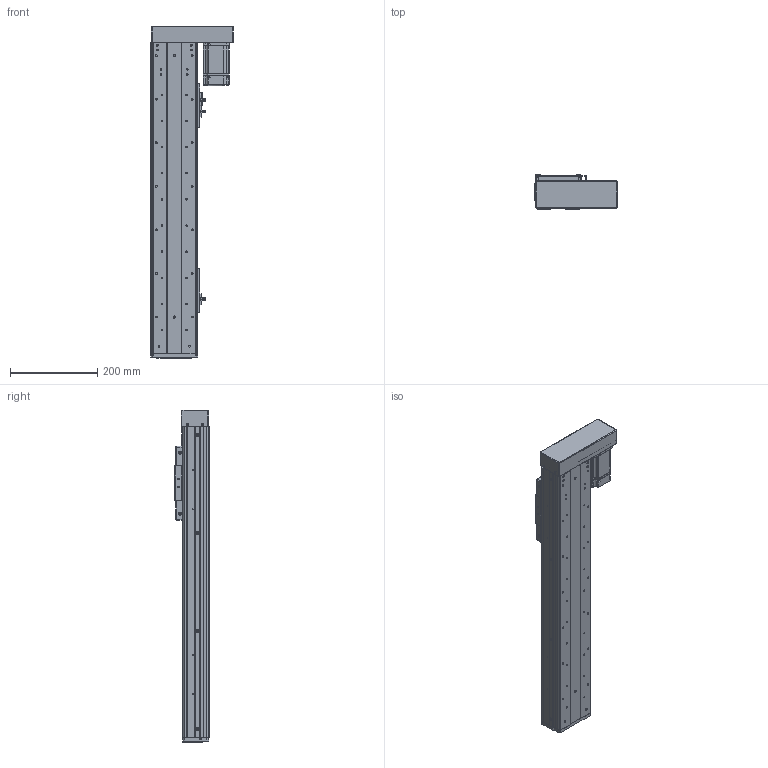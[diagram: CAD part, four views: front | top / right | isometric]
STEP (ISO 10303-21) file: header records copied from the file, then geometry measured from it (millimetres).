
FILE_DESCRIPTION (( 'STEP AP203' ), '1' );
FILE_NAME ('RY100FS-L1620-300-RK(15双轨).SLDASM_450.step', '2021-03-02T07:46:06', ( '盈信电脑' ), ( '东莞市道滘镇水果街19号' ), 'SwSTEP 2.0', 'SolidWorks 2012', '' );
FILE_SCHEMA (( 'CONFIG_CONTROL_DESIGN' ));
Products named in the file (21): 蚥薯蝶紫輸; RY100FS-L1620-300-RK(15邧寢).SLDASM_450; RY100FS-15邧寢蛌殏萇儂欶; 滅袉蝶14-35; RY100FS-15邧寢蛌殏萇儂釱; 1; RY100FS-15邧寢蛌殏萇儂啣; 覜茼ん672; RY100FS-双轨螺母座(16丝杆）; RY100F-詩湍揤踡輸; 672嫖萇羲壽假蚾釱; RY100F-詩湍揤踡謫; RY80俋离覜茼え; RY100F-綴裔啣; RY100FS-双轨铝滑块(上板）; RY100F-滅鳥裔啣; RY100F-詩湍幗謫粣; 棠沺沭; RY100FS-300-RK15絳寢倰第奻裔啣_450; RY100FS-300-RK15邧寢祥凄詩湍_450; RY100FS-300-RK15絳寢倰第菁釱_450
Assembly tree (29 placements, depth 2):
  RY100FS-L1620-300-RK(15邧寢).SLDASM_450
    RY100FS-300-RK15絳寢倰第菁釱_450
    RY100FS-300-RK15絳寢倰第奻裔啣_450  x2
    RY100FS-300-RK15邧寢祥凄詩湍_450
    RY100FS-双轨铝滑块(上板）
    RY100F-滅鳥裔啣
    棠沺沭  x2
    RY100F-詩湍幗謫粣
    RY100F-詩湍揤踡謫  x2
    RY100F-綴裔啣
    672嫖萇羲壽假蚾釱  x2
    RY80俋离覜茼え  x2
    覜茼ん672  x3
    RY100F-詩湍揤踡輸  x2
    RY100FS-双轨螺母座(16丝杆）
    RY100FS-15邧寢蛌殏萇儂釱
    滅袉蝶14-35
    1
    RY100FS-15邧寢蛌殏萇儂啣
    RY100FS-15邧寢蛌殏萇儂欶
    蚥薯蝶紫輸  x2
Bounding box: 189.5 x 78.5 x 762 mm (x, y, z)
Volume: 2069025 mm3; surface area: 864531.8 mm2
Topology: 29 solids, 29 shells, 2200 faces, 5941 edges, 3831 vertices
Faces by surface type: plane 1020, cylinder 979, cone 168, bspline 33
Entity records: 62307 total; most frequent: CARTESIAN_POINT 12821, DIRECTION 9894, ORIENTED_EDGE 9686, EDGE_CURVE 4843, AXIS2_PLACEMENT_3D 3496, VERTEX_POINT 3179, VECTOR 2902, LINE 2902
